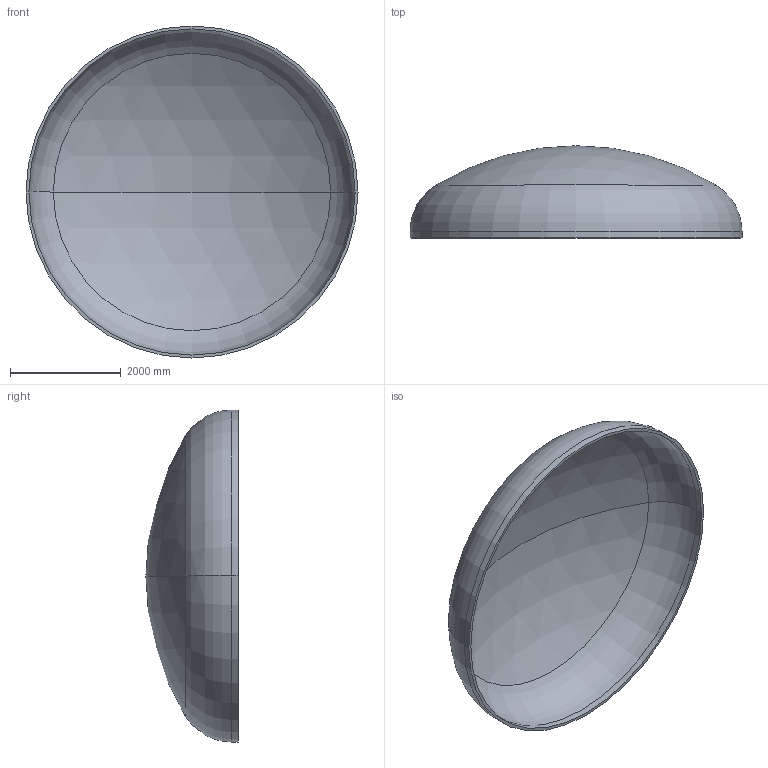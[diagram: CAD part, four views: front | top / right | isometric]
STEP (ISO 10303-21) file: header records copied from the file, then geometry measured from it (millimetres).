
FILE_DESCRIPTION (( 'STEP AP203' ), '1' );
FILE_NAME ('DIN 28013 Korbbogenform_-_Boden DIN 28013 - 6000 x 120 - I - s=52.step', '2016-07-04T10:37:27', ( '' ), ( '' ), 'SwSTEP 2.0', 'SolidWorks 2013', '' );
FILE_SCHEMA (( 'CONFIG_CONTROL_DESIGN' ));
Length unit declared in the file: millimetre
Products named in the file (1): DIN 28013 Korbbogenform_-_Boden DIN 28013 - 6000 x 120 - I - s=52
Bounding box: 6000 x 1666.99 x 6000 mm (x, y, z)
Volume: 2130126488.5 mm3; surface area: 82905255.8 mm2
Topology: 1 solids, 1 shells, 13 faces, 24 edges, 14 vertices
Faces by surface type: torus 4, cylinder 4, sphere 4, plane 1
Entity records: 407 total; most frequent: DIRECTION 72, CARTESIAN_POINT 52, ORIENTED_EDGE 48, AXIS2_PLACEMENT_3D 34, EDGE_CURVE 24, CIRCLE 20, EDGE_LOOP 14, VERTEX_POINT 14
